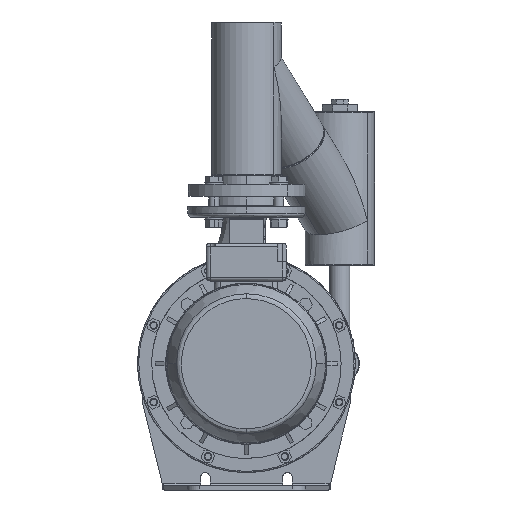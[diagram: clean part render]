
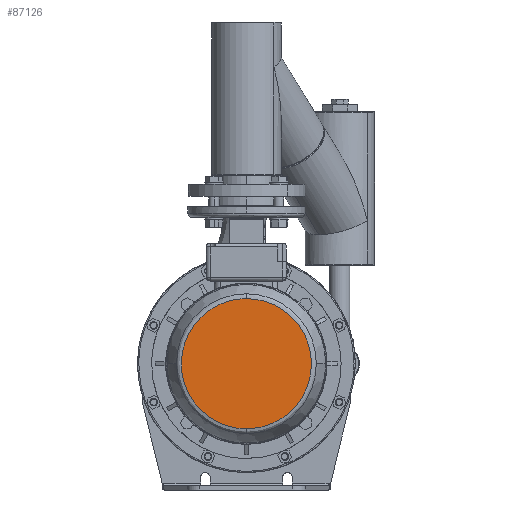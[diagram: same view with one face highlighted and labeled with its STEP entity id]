
A CAD part, front view. The second image highlights one B-rep face of the part: STEP entity #87126.
In plain terms, the highlighted planar face has unit normal (0, -1, 0).
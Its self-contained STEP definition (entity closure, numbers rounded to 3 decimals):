
#49652 = CARTESIAN_POINT ( 'NONE',  ( -154.478, -830.9, -78.019 ) ) ;
#52998 =( BOUNDED_CURVE ( )  B_SPLINE_CURVE ( 3, ( #53108, #53106, #53104, #53103 ),
 .UNSPECIFIED., .F., .T. ) 
 B_SPLINE_CURVE_WITH_KNOTS ( ( 4, 4 ),
 ( 0., 1. ),
 .UNSPECIFIED. ) 
 CURVE ( )  GEOMETRIC_REPRESENTATION_ITEM ( )  RATIONAL_B_SPLINE_CURVE ( ( 1., 0.333, 0.333, 1. ) ) 
 REPRESENTATION_ITEM ( '' )  );
#53103 = CARTESIAN_POINT ( 'NONE',  ( -154.478, -830.9, 128.019 ) ) ;
#53104 = CARTESIAN_POINT ( 'NONE',  ( -360.517, -830.9, 128.019 ) ) ;
#53106 = CARTESIAN_POINT ( 'NONE',  ( -360.517, -830.9, -78.019 ) ) ;
#53108 = CARTESIAN_POINT ( 'NONE',  ( -154.478, -830.9, -78.019 ) ) ;
#53130 = CARTESIAN_POINT ( 'NONE',  ( -154.478, -830.9, 128.019 ) ) ;
#86999 = EDGE_CURVE ( 'NONE', #147920, #132164, #90911, .T. ) ;
#87058 = EDGE_LOOP ( 'NONE', ( #87128, #87148 ) ) ;
#87126 = ADVANCED_FACE ( 'NONE', ( #91573 ), #91574, .T. ) ;
#87128 = ORIENTED_EDGE ( 'NONE', *, *, #147910, .F. ) ;
#87148 = ORIENTED_EDGE ( 'NONE', *, *, #86999, .F. ) ;
#90893 = CARTESIAN_POINT ( 'NONE',  ( -154.478, -830.9, -78.019 ) ) ;
#90896 = CARTESIAN_POINT ( 'NONE',  ( 51.56, -830.9, -78.019 ) ) ;
#90898 = CARTESIAN_POINT ( 'NONE',  ( 51.56, -830.9, 128.019 ) ) ;
#90899 = CARTESIAN_POINT ( 'NONE',  ( -154.478, -830.9, 128.019 ) ) ;
#90911 =( BOUNDED_CURVE ( )  B_SPLINE_CURVE ( 3, ( #90899, #90898, #90896, #90893 ),
 .UNSPECIFIED., .F., .T. ) 
 B_SPLINE_CURVE_WITH_KNOTS ( ( 4, 4 ),
 ( 0., 1. ),
 .UNSPECIFIED. ) 
 CURVE ( )  GEOMETRIC_REPRESENTATION_ITEM ( )  RATIONAL_B_SPLINE_CURVE ( ( 1., 0.333, 0.333, 1. ) ) 
 REPRESENTATION_ITEM ( '' )  );
#91569 = DIRECTION ( 'NONE',  ( 1., 0., 0. ) ) ;
#91570 = DIRECTION ( 'NONE',  ( 0., -1., 0. ) ) ;
#91572 = CARTESIAN_POINT ( 'NONE',  ( -154.478, -830.9, 25. ) ) ;
#91573 = FACE_OUTER_BOUND ( 'NONE', #87058, .T. ) ;
#91574 = PLANE ( 'NONE',  #91578 ) ;
#91578 = AXIS2_PLACEMENT_3D ( 'NONE', #91572, #91570, #91569 ) ;
#132164 = VERTEX_POINT ( 'NONE', #49652 ) ;
#147910 = EDGE_CURVE ( 'NONE', #132164, #147920, #52998, .T. ) ;
#147920 = VERTEX_POINT ( 'NONE', #53130 ) ;
